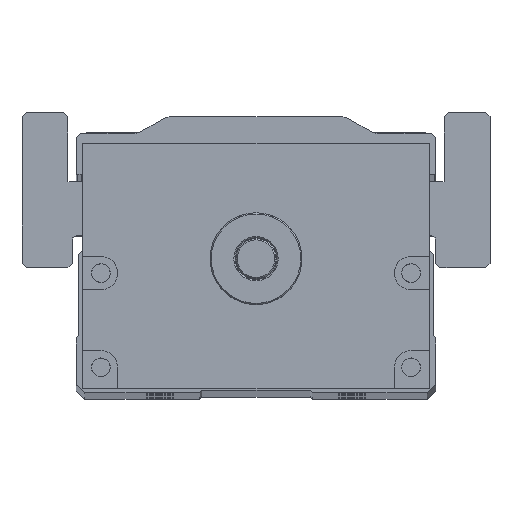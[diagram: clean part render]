
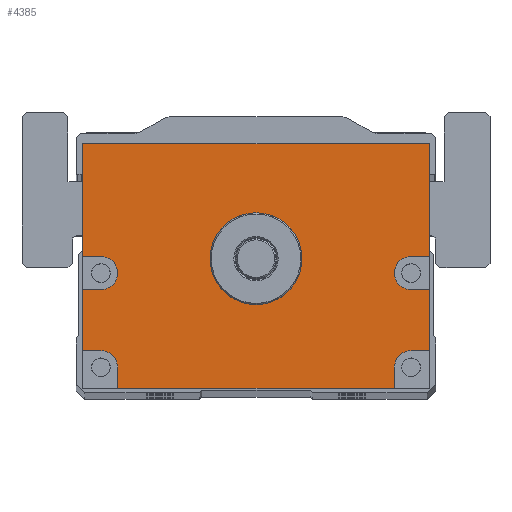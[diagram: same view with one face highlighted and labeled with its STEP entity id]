
A CAD part, top view. The second image highlights one B-rep face of the part: STEP entity #4385.
In plain terms, the highlighted planar face has unit normal (0, 0, 1).
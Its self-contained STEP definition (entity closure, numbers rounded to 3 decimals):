
#4385=ADVANCED_FACE('',(#7063,#7064),#4962,.T.);
#4962=PLANE('',#15681);
#5503=LINE('',#29659,#6323);
#5505=LINE('',#29667,#6325);
#5506=LINE('',#29670,#6326);
#5507=LINE('',#29672,#6327);
#5508=LINE('',#29676,#6328);
#5509=LINE('',#29678,#6329);
#5510=LINE('',#29679,#6330);
#5511=LINE('',#29681,#6331);
#5512=LINE('',#29685,#6332);
#5513=LINE('',#29687,#6333);
#5514=LINE('',#29689,#6334);
#5515=LINE('',#29693,#6335);
#5516=LINE('',#29695,#6336);
#5517=LINE('',#29697,#6337);
#6323=VECTOR('',#17673,1.);
#6325=VECTOR('',#17681,1.);
#6326=VECTOR('',#17682,1.);
#6327=VECTOR('',#17683,1.);
#6328=VECTOR('',#17686,1.);
#6329=VECTOR('',#17687,1.);
#6330=VECTOR('',#17688,1.);
#6331=VECTOR('',#17689,1.);
#6332=VECTOR('',#17692,1.);
#6333=VECTOR('',#17693,1.);
#6334=VECTOR('',#17694,1.);
#6335=VECTOR('',#17697,1.);
#6336=VECTOR('',#17698,1.);
#6337=VECTOR('',#17699,1.);
#7063=FACE_BOUND('',#7830,.T.);
#7064=FACE_BOUND('',#7831,.T.);
#7830=EDGE_LOOP('',(#9770,#9771,#9772,#9773,#9774,#9775,#9776,#9777,#9778,
#9779,#9780,#9781,#9782,#9783,#9784,#9785,#9786,#9787));
#7831=EDGE_LOOP('',(#9788));
#9770=ORIENTED_EDGE('',*,*,#13680,.F.);
#9771=ORIENTED_EDGE('',*,*,#13681,.T.);
#9772=ORIENTED_EDGE('',*,*,#13682,.F.);
#9773=ORIENTED_EDGE('',*,*,#13683,.F.);
#9774=ORIENTED_EDGE('',*,*,#13684,.F.);
#9775=ORIENTED_EDGE('',*,*,#13685,.T.);
#9776=ORIENTED_EDGE('',*,*,#13676,.T.);
#9777=ORIENTED_EDGE('',*,*,#13686,.T.);
#9778=ORIENTED_EDGE('',*,*,#13687,.F.);
#9779=ORIENTED_EDGE('',*,*,#13688,.F.);
#9780=ORIENTED_EDGE('',*,*,#13689,.F.);
#9781=ORIENTED_EDGE('',*,*,#13690,.T.);
#9782=ORIENTED_EDGE('',*,*,#13691,.F.);
#9783=ORIENTED_EDGE('',*,*,#13692,.F.);
#9784=ORIENTED_EDGE('',*,*,#13693,.F.);
#9785=ORIENTED_EDGE('',*,*,#13694,.T.);
#9786=ORIENTED_EDGE('',*,*,#13695,.F.);
#9787=ORIENTED_EDGE('',*,*,#13696,.F.);
#9788=ORIENTED_EDGE('',*,*,#13662,.T.);
#12276=VERTEX_POINT('',#29630);
#12289=VERTEX_POINT('',#29658);
#12290=VERTEX_POINT('',#29660);
#12293=VERTEX_POINT('',#29668);
#12294=VERTEX_POINT('',#29669);
#12295=VERTEX_POINT('',#29671);
#12296=VERTEX_POINT('',#29673);
#12297=VERTEX_POINT('',#29675);
#12298=VERTEX_POINT('',#29677);
#12299=VERTEX_POINT('',#29680);
#12300=VERTEX_POINT('',#29682);
#12301=VERTEX_POINT('',#29684);
#12302=VERTEX_POINT('',#29686);
#12303=VERTEX_POINT('',#29688);
#12304=VERTEX_POINT('',#29690);
#12305=VERTEX_POINT('',#29692);
#12306=VERTEX_POINT('',#29694);
#12307=VERTEX_POINT('',#29696);
#12308=VERTEX_POINT('',#29698);
#13662=EDGE_CURVE('',#12276,#12276,#14892,.T.);
#13676=EDGE_CURVE('',#12290,#12289,#5503,.T.);
#13680=EDGE_CURVE('',#12293,#12294,#5505,.T.);
#13681=EDGE_CURVE('',#12293,#12295,#5506,.T.);
#13682=EDGE_CURVE('',#12296,#12295,#5507,.T.);
#13683=EDGE_CURVE('',#12297,#12296,#14903,.T.);
#13684=EDGE_CURVE('',#12298,#12297,#5508,.T.);
#13685=EDGE_CURVE('',#12298,#12290,#5509,.T.);
#13686=EDGE_CURVE('',#12289,#12299,#5510,.T.);
#13687=EDGE_CURVE('',#12300,#12299,#5511,.T.);
#13688=EDGE_CURVE('',#12301,#12300,#14904,.T.);
#13689=EDGE_CURVE('',#12302,#12301,#5512,.T.);
#13690=EDGE_CURVE('',#12302,#12303,#5513,.T.);
#13691=EDGE_CURVE('',#12304,#12303,#5514,.T.);
#13692=EDGE_CURVE('',#12305,#12304,#14905,.T.);
#13693=EDGE_CURVE('',#12306,#12305,#5515,.T.);
#13694=EDGE_CURVE('',#12306,#12307,#5516,.T.);
#13695=EDGE_CURVE('',#12308,#12307,#5517,.T.);
#13696=EDGE_CURVE('',#12294,#12308,#14906,.T.);
#14892=CIRCLE('',#15663,11.);
#14903=CIRCLE('',#15677,4.);
#14904=CIRCLE('',#15678,4.);
#14905=CIRCLE('',#15679,4.);
#14906=CIRCLE('',#15680,4.);
#15663=AXIS2_PLACEMENT_3D('',#29629,#17646,#17647);
#15677=AXIS2_PLACEMENT_3D('',#29674,#17684,#17685);
#15678=AXIS2_PLACEMENT_3D('',#29683,#17690,#17691);
#15679=AXIS2_PLACEMENT_3D('',#29691,#17695,#17696);
#15680=AXIS2_PLACEMENT_3D('',#29699,#17700,#17701);
#15681=AXIS2_PLACEMENT_3D('',#29700,#17702,#17703);
#17646=DIRECTION('',(0.,0.,-1.));
#17647=DIRECTION('',(1.,0.,0.));
#17673=DIRECTION('',(-1.,0.,0.));
#17681=DIRECTION('',(-1.,0.,0.));
#17682=DIRECTION('',(0.,1.,0.));
#17683=DIRECTION('',(1.,0.,0.));
#17684=DIRECTION('',(0.,0.,1.));
#17685=DIRECTION('',(1.,0.,0.));
#17686=DIRECTION('',(-1.,0.,0.));
#17687=DIRECTION('',(0.,1.,0.));
#17688=DIRECTION('',(0.,-1.,0.));
#17689=DIRECTION('',(-1.,0.,0.));
#17690=DIRECTION('',(0.,0.,1.));
#17691=DIRECTION('',(1.,0.,0.));
#17692=DIRECTION('',(1.,0.,0.));
#17693=DIRECTION('',(0.,-1.,0.));
#17694=DIRECTION('',(-1.,0.,0.));
#17695=DIRECTION('',(0.,0.,1.));
#17696=DIRECTION('',(1.,0.,0.));
#17697=DIRECTION('',(0.,1.,0.));
#17698=DIRECTION('',(1.,0.,0.));
#17699=DIRECTION('',(0.,-1.,0.));
#17700=DIRECTION('',(0.,0.,1.));
#17701=DIRECTION('',(1.,0.,0.));
#17702=DIRECTION('',(0.,0.,1.));
#17703=DIRECTION('',(1.,0.,0.));
#29629=CARTESIAN_POINT('',(0.,0.,782.5));
#29630=CARTESIAN_POINT('',(11.,0.,782.5));
#29658=CARTESIAN_POINT('',(-41.5,27.5,782.5));
#29659=CARTESIAN_POINT('',(41.5,27.5,782.5));
#29660=CARTESIAN_POINT('',(41.5,27.5,782.5));
#29667=CARTESIAN_POINT('',(41.5,-22.,782.5));
#29668=CARTESIAN_POINT('',(41.5,-22.,782.5));
#29669=CARTESIAN_POINT('',(37.115,-22.,782.5));
#29670=CARTESIAN_POINT('',(41.5,-31.,782.5));
#29671=CARTESIAN_POINT('',(41.5,-7.431,782.5));
#29672=CARTESIAN_POINT('',(41.5,-7.431,782.5));
#29673=CARTESIAN_POINT('',(37.115,-7.431,782.5));
#29674=CARTESIAN_POINT('',(37.115,-3.431,782.5));
#29675=CARTESIAN_POINT('',(37.115,0.569,782.5));
#29676=CARTESIAN_POINT('',(41.5,0.569,782.5));
#29677=CARTESIAN_POINT('',(41.5,0.569,782.5));
#29678=CARTESIAN_POINT('',(41.5,-31.,782.5));
#29679=CARTESIAN_POINT('',(-41.5,27.5,782.5));
#29680=CARTESIAN_POINT('',(-41.5,0.569,782.5));
#29681=CARTESIAN_POINT('',(41.5,0.569,782.5));
#29682=CARTESIAN_POINT('',(-37.115,0.569,782.5));
#29683=CARTESIAN_POINT('',(-37.115,-3.431,782.5));
#29684=CARTESIAN_POINT('',(-37.115,-7.431,782.5));
#29685=CARTESIAN_POINT('',(41.5,-7.431,782.5));
#29686=CARTESIAN_POINT('',(-41.5,-7.431,782.5));
#29687=CARTESIAN_POINT('',(-41.5,27.5,782.5));
#29688=CARTESIAN_POINT('',(-41.5,-22.,782.5));
#29689=CARTESIAN_POINT('',(41.5,-22.,782.5));
#29690=CARTESIAN_POINT('',(-37.115,-22.,782.5));
#29691=CARTESIAN_POINT('',(-37.115,-26.,782.5));
#29692=CARTESIAN_POINT('',(-33.115,-26.,782.5));
#29693=CARTESIAN_POINT('',(-33.115,-31.,782.5));
#29694=CARTESIAN_POINT('',(-33.115,-31.,782.5));
#29695=CARTESIAN_POINT('',(-41.5,-31.,782.5));
#29696=CARTESIAN_POINT('',(33.115,-31.,782.5));
#29697=CARTESIAN_POINT('',(33.115,-31.,782.5));
#29698=CARTESIAN_POINT('',(33.115,-26.,782.5));
#29699=CARTESIAN_POINT('',(37.115,-26.,782.5));
#29700=CARTESIAN_POINT('',(41.5,-31.,782.5));
